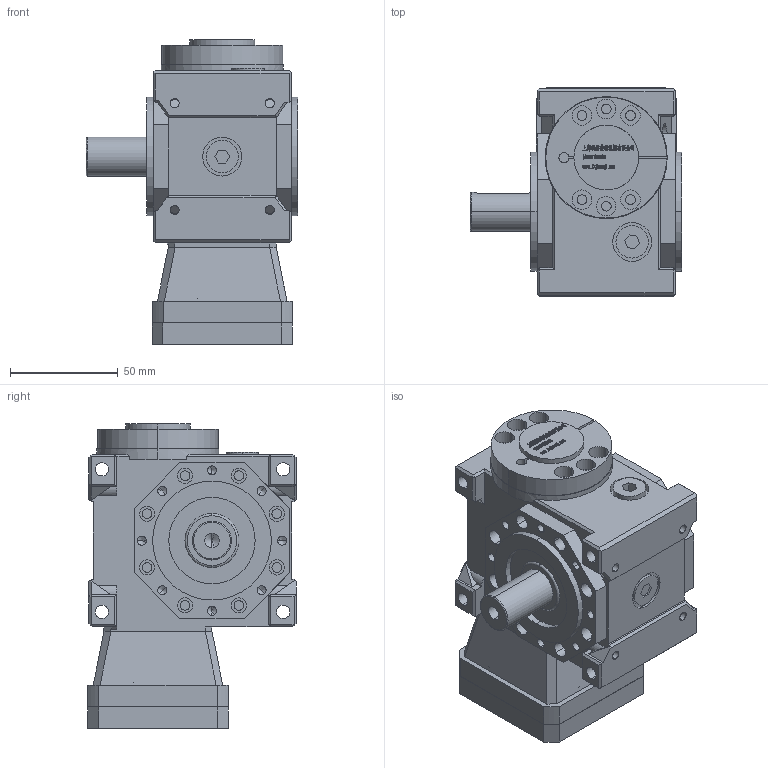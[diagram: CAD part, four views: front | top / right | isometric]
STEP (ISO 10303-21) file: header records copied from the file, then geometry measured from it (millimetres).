
FILE_DESCRIPTION (( 'STEP AP203' ), '1' );
FILE_NAME ('FXLB025-(5~90)-ASL-14-50-70-M5.step', '2022-11-06T02:14:21', ( '' ), ( '' ), 'SwSTEP 2.0', 'SolidWorks 2020', '' );
FILE_SCHEMA (( 'CONFIG_CONTROL_DESIGN' ));
Length unit declared in the file: millimetre
Products named in the file (8): JDLB025-ST60________.step; 錨璃80^FXLB025-(5~90)-ASL-14-50-70-M5; FXLB025-(5~90)-ASL-14-50-70-M5; JDLB025-ASR________14.step; ST60-50-70-M6____________.step; ______BD29-33-9-14____.step; JDLB025-CR____.step; FXLB025-(5~90)-ASL-14-50-70-M5.step
Assembly tree (7 placements, depth 3):
  FXLB025-(5~90)-ASL-14-50-70-M5
    FXLB025-(5~90)-ASL-14-50-70-M5.step
      JDLB025-CR____.step
      JDLB025-ST60________.step
      JDLB025-ASR________14.step
      ST60-50-70-M6____________.step
      ______BD29-33-9-14____.step
    錨璃80^FXLB025-(5~90)-ASL-14-50-70-M5
Bounding box: 98 x 96.5 x 141.2 mm (x, y, z)
Volume: 593389.7 mm3; surface area: 127413.4 mm2
Topology: 82 solids, 86 shells, 2649 faces, 6942 edges, 4532 vertices
Faces by surface type: plane 1553, bspline 572, cylinder 416, cone 86, torus 22
Entity records: 106312 total; most frequent: CARTESIAN_POINT 43774, ORIENTED_EDGE 13756, DIRECTION 10730, EDGE_CURVE 6878, LINE 4732, VECTOR 4732, VERTEX_POINT 4532, AXIS2_PLACEMENT_3D 2999
